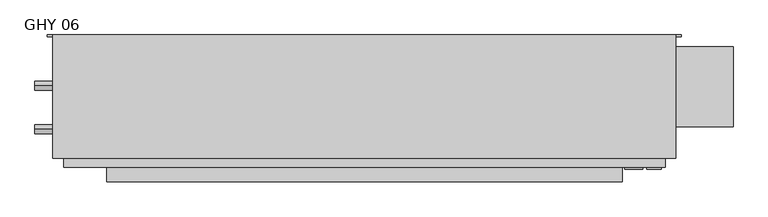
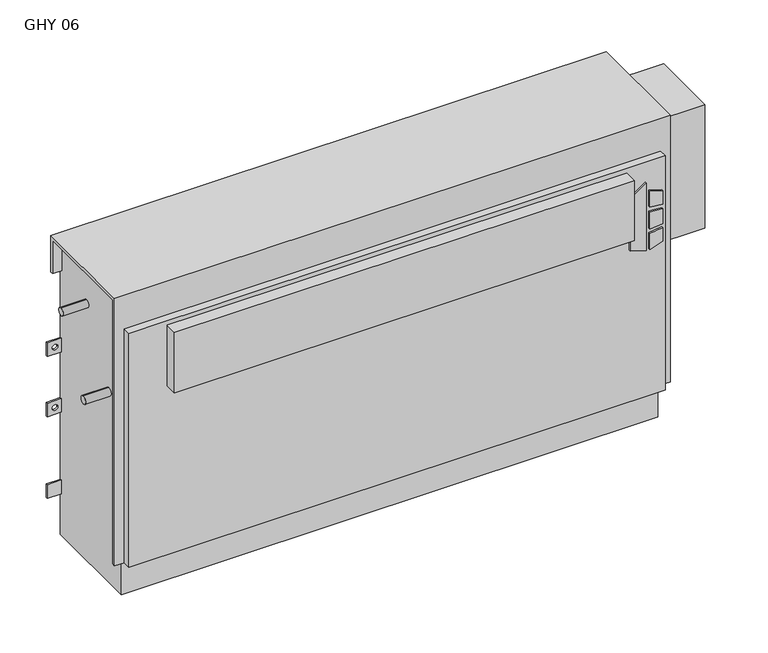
"""IFC4 building model written with IfcOpenShell, lengths in millimetres: proxy geometry, Vertical_Fan_Coil_Unit_-_GHY_-_IEC_-_2-Pipe_FS-FR_LH_2022 : GHY 06."""

from ifc_helpers import new_model, si_unit, point, frame, frame_2d, origin, place, context, project, spatial, polyline, circle_curve, trimmed, segment, composite_curve, outline, extrude, source, transform, mapped, element, save
from ifc_brep_helpers import plane_surface, revolved_surface, advanced_brep


def ghy_06_2a17fef1(model_context):
    return source(origin(), model_context, "Body", "SolidModel", [
        extrude(outline(polyline([(391.6086829, 614.4368862), (381.6606126, 646.6102728), (523.831537, 646.6102728), (500.8095309, 614.4368862), (391.6086829, 614.4368862)])), frame((0.0, 6.35, 0.0), z_axis=(0.0, 1.0, 0.0), x_axis=(0.0, 0.0, 1.0)), (0.0, 0.0, 1.0), 3.175),
        extrude(outline(polyline([(470.6079683, 653.3686058), (467.4055757, 679.45), (496.6344168, 679.45), (504.6988318, 653.3686058), (470.6079683, 653.3686058)])), frame((0.0, 6.35, 0.0), z_axis=(0.0, 1.0, 0.0), x_axis=(0.0, 0.0, 1.0)), (0.0, 0.0, 1.0), 3.175),
        extrude(outline(polyline([(418.7444414, 679.45), (415.0789404, 653.3686058), (381.6606126, 653.3686058), (390.2948498, 679.45), (418.7444414, 679.45)])), frame((0.0, 6.35, 0.0), z_axis=(0.0, 1.0, 0.0), x_axis=(0.0, 0.0, 1.0)), (0.0, 0.0, 1.0), 3.175),
        extrude(outline(polyline([(458.0596028, 679.45), (460.3414292, 653.3686058), (424.4038806, 653.3686058), (427.1451456, 679.45), (458.0596028, 679.45)])), frame((0.0, 6.35, 0.0), z_axis=(0.0, 1.0, 0.0), x_axis=(0.0, 0.0, 1.0)), (0.0, 0.0, 1.0), 3.175),
        extrude(outline(polyline([(609.6, -15.875), (-304.8, -15.875), (-304.8, 9.525), (609.6, 9.525), (609.6, -15.875)])), frame((0.0, 0.0, 428.625), z_axis=(0.0, 0.0, 1.0), x_axis=(1.0, 0.0, 0.0)), (0.0, 0.0, 1.0), 127.0),
        extrude(outline(composite_curve([segment(trimmed(circle_curve(frame_2d((77.597, 401.574)), 7.9375), [point((77.597, 409.5115))], [point((77.597, 393.6365))], False, "CARTESIAN"), True, "CONTINUOUS"), segment(trimmed(circle_curve(frame_2d((77.597, 401.574)), 7.9375), [point((77.597, 393.6365))], [point((77.597, 409.5115))], False, "CARTESIAN"), True, "CONTINUOUS")], self_intersect=False)), frame((-431.8, 0.0, 0.0), z_axis=(1.0, 0.0, 0.0), x_axis=(0.0, 1.0, 0.0)), (0.0, 0.0, 1.0), 50.8),
        extrude(outline(composite_curve([segment(trimmed(circle_curve(frame_2d((154.559, 540.512)), 7.9375), [point((154.559, 548.4495))], [point((154.559, 532.5745))], False, "CARTESIAN"), True, "CONTINUOUS"), segment(trimmed(circle_curve(frame_2d((154.559, 540.512)), 7.9375), [point((154.559, 532.5745))], [point((154.559, 548.4495))], False, "CARTESIAN"), True, "CONTINUOUS")], self_intersect=False)), frame((-431.8, 0.0, 0.0), z_axis=(1.0, 0.0, 0.0), x_axis=(0.0, 1.0, 0.0)), (0.0, 0.0, 1.0), 50.8),
        extrude(outline(polyline([(806.45, 223.266), (806.45, 81.534), (685.8, 81.534), (685.8, 223.266), (806.45, 223.266)])), frame((0.0, 0.0, 327.025), z_axis=(0.0, 0.0, 1.0), x_axis=(1.0, 0.0, 0.0)), (0.0, 0.0, 1.0), 260.35),
        advanced_brep(
        [(704.85, 244.475, 635.0), (-400.05, 244.475, 635.0), (-400.05, 25.4, 635.0), (704.85, 25.4, 635.0), (-381.0, 244.475, 0.0), (685.8, 244.475, 0.0), (685.8, 34.925, 0.0), (-381.0, 34.925, 0.0), (704.85, 244.475, 558.8), (685.8, 244.475, 558.8), (685.8, 244.475, 414.3375), (714.375, 244.475, 414.3375), (714.375, 244.475, 385.7625), (685.8, 244.475, 385.7625), (685.8, 244.475, 287.3375), (714.375, 244.475, 287.3375), (714.375, 244.475, 258.7625), (685.8, 244.475, 258.7625), (685.8, 244.475, 141.2875), (714.375, 244.475, 141.2875), (714.375, 244.475, 112.7125), (685.8, 244.475, 112.7125), (-381.0, 244.475, 87.3125), (-409.575, 244.475, 87.3125), (-409.575, 244.475, 115.8875), (-381.0, 244.475, 115.8875), (-381.0, 244.475, 258.7625), (-409.575, 244.475, 258.7625), (-409.575, 244.475, 287.3375), (-381.0, 244.475, 287.3375), (-381.0, 244.475, 385.7625), (-409.575, 244.475, 385.7625), (-409.575, 244.475, 414.3375), (-381.0, 244.475, 414.3375), (-381.0, 244.475, 558.8), (-400.05, 244.475, 558.8), (704.0626, 244.475, 127.0), (692.9374, 244.475, 127.0), (704.0626, 244.475, 273.05), (692.9374, 244.475, 273.05), (-388.1374, 244.475, 273.05), (-399.2626, 244.475, 273.05), (704.0626, 244.475, 400.05), (692.9374, 244.475, 400.05), (-388.1374, 244.475, 400.05), (-399.2626, 244.475, 400.05), (-400.05, 238.125, 558.8), (-400.05, 238.125, 628.65), (-400.05, 31.75, 628.65), (-400.05, 31.75, 73.025), (-400.05, 25.4, 73.025), (685.8, 9.525, 565.15), (-381.0, 9.525, 565.15), (-381.0, 9.525, 73.025), (685.8, 9.525, 73.025), (704.85, 25.4, 73.025), (704.85, 31.75, 73.025), (704.85, 31.75, 628.65), (704.85, 238.125, 628.65), (704.85, 238.125, 558.8), (-381.0, 25.4, 73.025), (-381.0, 25.4, 565.15), (685.8, 25.4, 565.15), (685.8, 25.4, 73.025), (-381.0, 31.75, 73.025), (-381.0, 34.925, 73.025), (685.8, 34.925, 73.025), (685.8, 31.75, 73.025), (685.8, 241.3, 112.7125), (685.8, 241.3, 141.2875), (685.8, 241.3, 258.7625), (685.8, 241.3, 287.3375), (685.8, 241.3, 385.7625), (685.8, 241.3, 414.3375), (685.8, 238.125, 558.8), (685.8, 238.125, 628.65), (685.8, 31.75, 628.65), (-381.0, 31.75, 628.65), (-381.0, 238.125, 628.65), (-381.0, 238.125, 558.8), (-381.0, 241.3, 414.3375), (-381.0, 241.3, 385.7625), (-381.0, 241.3, 287.3375), (-381.0, 241.3, 258.7625), (-381.0, 241.3, 115.8875), (-381.0, 241.3, 87.3125), (714.375, 241.3, 112.7125), (714.375, 241.3, 141.2875), (692.9374, 241.3, 127.0), (704.0626, 241.3, 127.0), (714.375, 241.3, 258.7625), (714.375, 241.3, 287.3375), (692.9374, 241.3, 273.05), (704.0626, 241.3, 273.05), (714.375, 241.3, 385.7625), (714.375, 241.3, 414.3375), (692.9374, 241.3, 400.05), (704.0626, 241.3, 400.05), (-409.575, 241.3, 115.8875), (-409.575, 241.3, 87.3125), (-409.575, 241.3, 287.3375), (-409.575, 241.3, 258.7625), (-399.2626, 241.3, 273.05), (-388.1374, 241.3, 273.05), (-409.575, 241.3, 414.3375), (-409.575, 241.3, 385.7625), (-399.2626, 241.3, 400.05), (-388.1374, 241.3, 400.05)],
        [
            (0, 1),
            (1, 2),
            (2, 3),
            (3, 0),
            (4, 5),
            (5, 6),
            (6, 7),
            (7, 4),
            (0, 8),
            (8, 9),
            (9, 10),
            (10, 11),
            (11, 12),
            (12, 13),
            (13, 14),
            (14, 15),
            (15, 16),
            (16, 17),
            (17, 18),
            (18, 19),
            (19, 20),
            (20, 21),
            (21, 5),
            (4, 22),
            (22, 23),
            (23, 24),
            (24, 25),
            (25, 26),
            (26, 27),
            (27, 28),
            (28, 29),
            (29, 30),
            (30, 31),
            (31, 32),
            (32, 33),
            (33, 34),
            (34, 35),
            (35, 1),
            (36, 37, circle_curve(frame((698.5, 244.475, 127.0), z_axis=(0.0, -1.0, 0.0), x_axis=(-1.0, 0.0, 0.0)), 5.5626)),
            (37, 36, circle_curve(frame((698.5, 244.475, 127.0), z_axis=(0.0, -1.0, 0.0), x_axis=(-1.0, 0.0, 0.0)), 5.5626)),
            (38, 39, circle_curve(frame((698.5, 244.475, 273.05), z_axis=(0.0, -1.0, 0.0), x_axis=(-1.0, 0.0, 0.0)), 5.5626)),
            (39, 38, circle_curve(frame((698.5, 244.475, 273.05), z_axis=(0.0, -1.0, 0.0), x_axis=(-1.0, 0.0, 0.0)), 5.5626)),
            (40, 41, circle_curve(frame((-393.7, 244.475, 273.05), z_axis=(0.0, -1.0, 0.0), x_axis=(-1.0, 0.0, 0.0)), 5.5626)),
            (41, 40, circle_curve(frame((-393.7, 244.475, 273.05), z_axis=(0.0, -1.0, 0.0), x_axis=(-1.0, 0.0, 0.0)), 5.5626)),
            (42, 43, circle_curve(frame((698.5, 244.475, 400.05), z_axis=(0.0, -1.0, 0.0), x_axis=(-1.0, 0.0, 0.0)), 5.5626)),
            (43, 42, circle_curve(frame((698.5, 244.475, 400.05), z_axis=(0.0, -1.0, 0.0), x_axis=(-1.0, 0.0, 0.0)), 5.5626)),
            (44, 45, circle_curve(frame((-393.7, 244.475, 400.05), z_axis=(0.0, -1.0, 0.0), x_axis=(-1.0, 0.0, 0.0)), 5.5626)),
            (45, 44, circle_curve(frame((-393.7, 244.475, 400.05), z_axis=(0.0, -1.0, 0.0), x_axis=(-1.0, 0.0, 0.0)), 5.5626)),
            (35, 46),
            (46, 47),
            (47, 48),
            (48, 49),
            (49, 50),
            (50, 2),
            (51, 52),
            (52, 53),
            (53, 54),
            (54, 51),
            (3, 55),
            (55, 56),
            (56, 57),
            (57, 58),
            (58, 59),
            (59, 8),
            (50, 60),
            (60, 61),
            (61, 62),
            (62, 63),
            (63, 55),
            (51, 62),
            (61, 52),
            (53, 60),
            (49, 64),
            (64, 65),
            (65, 66),
            (66, 67),
            (67, 56),
            (63, 54),
            (6, 66),
            (65, 7),
            (21, 68),
            (68, 69),
            (69, 18),
            (17, 70),
            (70, 71),
            (71, 14),
            (13, 72),
            (72, 73),
            (73, 10),
            (9, 74),
            (74, 75),
            (75, 76),
            (76, 67),
            (64, 77),
            (77, 78),
            (78, 79),
            (79, 34),
            (33, 80),
            (80, 81),
            (81, 30),
            (29, 82),
            (82, 83),
            (83, 26),
            (25, 84),
            (84, 85),
            (85, 22),
            (74, 59),
            (58, 75),
            (76, 57),
            (48, 77),
            (79, 46),
            (78, 47),
            (68, 86),
            (86, 87),
            (87, 69),
            (88, 89, circle_curve(frame((698.5, 241.3, 127.0), z_axis=(0.0, 1.0, 0.0), x_axis=(-1.0, 0.0, 0.0)), 5.5626)),
            (89, 88, circle_curve(frame((698.5, 241.3, 127.0), z_axis=(0.0, 1.0, 0.0), x_axis=(-1.0, 0.0, 0.0)), 5.5626)),
            (90, 91),
            (91, 71),
            (70, 90),
            (92, 93, circle_curve(frame((698.5, 241.3, 273.05), z_axis=(0.0, 1.0, 0.0), x_axis=(-1.0, 0.0, 0.0)), 5.5626)),
            (93, 92, circle_curve(frame((698.5, 241.3, 273.05), z_axis=(0.0, 1.0, 0.0), x_axis=(-1.0, 0.0, 0.0)), 5.5626)),
            (94, 95),
            (95, 73),
            (72, 94),
            (96, 97, circle_curve(frame((698.5, 241.3, 400.05), z_axis=(0.0, 1.0, 0.0), x_axis=(-1.0, 0.0, 0.0)), 5.5626)),
            (97, 96, circle_curve(frame((698.5, 241.3, 400.05), z_axis=(0.0, 1.0, 0.0), x_axis=(-1.0, 0.0, 0.0)), 5.5626)),
            (98, 99),
            (99, 85),
            (84, 98),
            (82, 100),
            (100, 101),
            (101, 83),
            (102, 103, circle_curve(frame((-393.7, 241.3, 273.05), z_axis=(0.0, 1.0, 0.0), x_axis=(-1.0, 0.0, 0.0)), 5.5626)),
            (103, 102, circle_curve(frame((-393.7, 241.3, 273.05), z_axis=(0.0, 1.0, 0.0), x_axis=(-1.0, 0.0, 0.0)), 5.5626)),
            (104, 105),
            (105, 81),
            (80, 104),
            (106, 107, circle_curve(frame((-393.7, 241.3, 400.05), z_axis=(0.0, 1.0, 0.0), x_axis=(-1.0, 0.0, 0.0)), 5.5626)),
            (107, 106, circle_curve(frame((-393.7, 241.3, 400.05), z_axis=(0.0, 1.0, 0.0), x_axis=(-1.0, 0.0, 0.0)), 5.5626)),
            (87, 19),
            (86, 20),
            (16, 90),
            (91, 15),
            (12, 94),
            (95, 11),
            (24, 98),
            (99, 23),
            (101, 27),
            (100, 28),
            (32, 104),
            (105, 31),
            (88, 37),
            (36, 89),
            (92, 39),
            (38, 93),
            (102, 41),
            (40, 103),
            (96, 43),
            (42, 97),
            (106, 45),
            (44, 107),
        ],
        [
            plane_surface(frame((-400.05, 244.475, 635.0), z_axis=(0.0, 0.0, 1.0), x_axis=(-1.0, 0.0, 0.0))),
            plane_surface(frame((-400.05, 244.475, 0.0), z_axis=(0.0, 0.0, -1.0), x_axis=(1.0, 0.0, 0.0))),
            plane_surface(frame((704.85, 244.475, 635.0), z_axis=(0.0, 1.0, 0.0), x_axis=(0.0, 0.0, -1.0))),
            plane_surface(frame((-400.05, 244.475, 635.0), z_axis=(-1.0, 0.0, 0.0), x_axis=(0.0, 0.0, -1.0))),
            plane_surface(frame((-400.05, 9.525, 635.0), z_axis=(0.0, -1.0, 0.0), x_axis=(0.0, 0.0, -1.0))),
            plane_surface(frame((704.85, 9.525, 635.0), z_axis=(1.0, 0.0, 0.0), x_axis=(0.0, 0.0, -1.0))),
            plane_surface(frame((-654.05, 25.4, 635.0), z_axis=(0.0, -1.0, 0.0), x_axis=(1.0, 0.0, 0.0))),
            plane_surface(frame((-654.05, 25.4, 565.15), z_axis=(0.0, 0.0, 1.0), x_axis=(1.0, 0.0, 0.0))),
            plane_surface(frame((-400.05, 9.525, 73.025), z_axis=(0.0, 0.0, -1.0), x_axis=(1.0, 0.0, 0.0))),
            plane_surface(frame((-400.05, 34.925, 73.025), z_axis=(0.0, -1.0, 0.0), x_axis=(1.0, 0.0, 0.0))),
            plane_surface(frame((685.8, 25.4, 73.025), z_axis=(1.0, 0.0, 0.0), x_axis=(0.0, -1.0, 0.0))),
            plane_surface(frame((-381.0, 25.4, 565.15), z_axis=(-1.0, 0.0, 0.0), x_axis=(0.0, -1.0, 0.0))),
            plane_surface(frame((685.8, 244.475, 0.0), z_axis=(1.0, 0.0, 0.0), x_axis=(0.0, -1.0, 0.0))),
            plane_surface(frame((-381.0, 244.475, 73.025), z_axis=(-1.0, 0.0, 0.0), x_axis=(0.0, -1.0, 0.0))),
            plane_surface(frame((685.8, 238.125, 628.65), z_axis=(0.0, -1.0, 0.0), x_axis=(1.0, 0.0, 0.0))),
            plane_surface(frame((685.8, 238.125, 558.8), z_axis=(0.0, 0.0, -1.0), x_axis=(1.0, 0.0, 0.0))),
            plane_surface(frame((685.8, 31.75, 73.025), z_axis=(0.0, 1.0, 0.0), x_axis=(1.0, 0.0, 0.0))),
            plane_surface(frame((685.8, 31.75, 628.65), z_axis=(0.0, 0.0, -1.0), x_axis=(1.0, 0.0, 0.0))),
            plane_surface(frame((-381.0, 31.75, 628.65), z_axis=(0.0, 1.0, 0.0), x_axis=(-1.0, 0.0, 0.0))),
            plane_surface(frame((-381.0, 244.475, 558.8), z_axis=(0.0, 0.0, -1.0), x_axis=(-1.0, 0.0, 0.0))),
            plane_surface(frame((-381.0, 238.125, 558.8), z_axis=(0.0, -1.0, 0.0), x_axis=(-1.0, 0.0, 0.0))),
            plane_surface(frame((-381.0, 238.125, 628.65), z_axis=(0.0, 0.0, -1.0), x_axis=(-1.0, 0.0, 0.0))),
            plane_surface(frame((714.375, 241.3, 141.2875), z_axis=(0.0, -1.0, 0.0), x_axis=(-1.0, 0.0, 0.0))),
            plane_surface(frame((685.8, 244.475, 141.2875), z_axis=(0.0, 0.0, 1.0), x_axis=(0.0, -1.0, 0.0))),
            plane_surface(frame((714.375, 244.475, 141.2875), z_axis=(1.0, 0.0, 0.0), x_axis=(0.0, -1.0, 0.0))),
            plane_surface(frame((714.375, 244.475, 112.7125), z_axis=(0.0, 0.0, -1.0), x_axis=(0.0, -1.0, 0.0))),
            plane_surface(frame((714.375, 244.475, 258.7625), z_axis=(0.0, 0.0, -1.0), x_axis=(0.0, -1.0, 0.0))),
            plane_surface(frame((685.8, 244.475, 287.3375), z_axis=(0.0, 0.0, 1.0), x_axis=(0.0, -1.0, 0.0))),
            plane_surface(frame((714.375, 244.475, 287.3375), z_axis=(1.0, 0.0, 0.0), x_axis=(0.0, -1.0, 0.0))),
            plane_surface(frame((714.375, 244.475, 385.7625), z_axis=(0.0, 0.0, -1.0), x_axis=(0.0, -1.0, 0.0))),
            plane_surface(frame((685.8, 244.475, 414.3375), z_axis=(0.0, 0.0, 1.0), x_axis=(0.0, -1.0, 0.0))),
            plane_surface(frame((714.375, 244.475, 414.3375), z_axis=(1.0, 0.0, 0.0), x_axis=(0.0, -1.0, 0.0))),
            plane_surface(frame((-409.575, 244.475, 115.8875), z_axis=(0.0, 0.0, 1.0), x_axis=(0.0, -1.0, 0.0))),
            plane_surface(frame((-381.0, 244.475, 87.3125), z_axis=(0.0, 0.0, -1.0), x_axis=(0.0, -1.0, 0.0))),
            plane_surface(frame((-409.575, 244.475, 87.3125), z_axis=(-1.0, 0.0, 0.0), x_axis=(0.0, -1.0, 0.0))),
            plane_surface(frame((-381.0, 244.475, 258.7625), z_axis=(0.0, 0.0, -1.0), x_axis=(0.0, -1.0, 0.0))),
            plane_surface(frame((-409.575, 244.475, 258.7625), z_axis=(-1.0, 0.0, 0.0), x_axis=(0.0, -1.0, 0.0))),
            plane_surface(frame((-409.575, 244.475, 287.3375), z_axis=(0.0, 0.0, 1.0), x_axis=(0.0, -1.0, 0.0))),
            plane_surface(frame((-409.575, 244.475, 414.3375), z_axis=(0.0, 0.0, 1.0), x_axis=(0.0, -1.0, 0.0))),
            plane_surface(frame((-381.0, 244.475, 385.7625), z_axis=(0.0, 0.0, -1.0), x_axis=(0.0, -1.0, 0.0))),
            plane_surface(frame((-409.575, 244.475, 385.7625), z_axis=(-1.0, 0.0, 0.0), x_axis=(0.0, -1.0, 0.0))),
            revolved_surface(polyline([(692.9374, 241.3, 127.0), (692.9374, 244.475, 127.0)]), (698.5, 244.475, 127.0), (0.0, -1.0, 0.0)),
            revolved_surface(polyline([(692.9374, 241.3, 273.05), (692.9374, 244.475, 273.05)]), (698.5, 244.475, 273.05), (0.0, -1.0, 0.0)),
            revolved_surface(polyline([(-399.26259999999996, 241.3, 273.05), (-399.26259999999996, 244.475, 273.05)]), (-393.7, 244.475, 273.05), (0.0, -1.0, 0.0)),
            revolved_surface(polyline([(692.9374, 241.3, 400.05), (692.9374, 244.475, 400.05)]), (698.5, 244.475, 400.05), (0.0, -1.0, 0.0)),
            revolved_surface(polyline([(-399.26259999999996, 241.3, 400.05), (-399.26259999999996, 244.475, 400.05)]), (-393.7, 244.475, 400.05), (0.0, -1.0, 0.0)),
        ],
        [
            (0, [[1, 2, 3, 4]]),
            (1, [[5, 6, 7, 8]]),
            (2, [[-1, 9, 10, 11, 12, 13, 14, 15, 16, 17, 18, 19, 20, 21, 22, 23, -5, 24, 25, 26, 27, 28, 29, 30, 31, 32, 33, 34, 35, 36, 37, 38], [39, 40], [41, 42], [43, 44], [45, 46], [47, 48]]),
            (3, [[-2, -38, 49, 50, 51, 52, 53, 54]]),
            (4, [[55, 56, 57, 58]]),
            (5, [[-4, 59, 60, 61, 62, 63, 64, -9]]),
            (6, [[-3, -54, 65, 66, 67, 68, 69, -59]]),
            (7, [[-55, 70, -67, 71]]),
            (8, [[-57, 72, -65, -53, 73, 74, 75, 76, 77, -60, -69, 78]]),
            (9, [[-7, 79, -75, 80]]),
            (10, [[-68, -70, -58, -78]]),
            (11, [[-66, -72, -56, -71]]),
            (12, [[-6, -23, 81, 82, 83, -19, 84, 85, 86, -15, 87, 88, 89, -11, 90, 91, 92, 93, -76, -79]]),
            (13, [[-8, -80, -74, 94, 95, 96, 97, -36, 98, 99, 100, -32, 101, 102, 103, -28, 104, 105, 106, -24]]),
            (14, [[-91, 107, -63, 108]]),
            (15, [[-90, -10, -64, -107]]),
            (16, [[-93, 109, -61, -77]]),
            (17, [[-92, -108, -62, -109]]),
            (18, [[-94, -73, -52, 110]]),
            (19, [[-97, 111, -49, -37]]),
            (20, [[-96, 112, -50, -111]]),
            (21, [[-95, -110, -51, -112]]),
            (22, [[113, 114, 115, -82], [116, 117]]),
            (22, [[118, 119, -85, 120], [121, 122]]),
            (22, [[123, 124, -88, 125], [126, 127]]),
            (22, [[128, 129, -105, 130]]),
            (22, [[131, 132, 133, -102], [134, 135]]),
            (22, [[136, 137, -99, 138], [139, 140]]),
            (23, [[-115, 141, -20, -83]]),
            (24, [[-114, 142, -21, -141]]),
            (25, [[-113, -81, -22, -142]]),
            (26, [[-120, -84, -18, 143]]),
            (27, [[-119, 144, -16, -86]]),
            (28, [[-118, -143, -17, -144]]),
            (29, [[-125, -87, -14, 145]]),
            (30, [[-124, 146, -12, -89]]),
            (31, [[-123, -145, -13, -146]]),
            (32, [[-130, -104, -27, 147]]),
            (33, [[-129, 148, -25, -106]]),
            (34, [[-128, -147, -26, -148]]),
            (35, [[-133, 149, -29, -103]]),
            (36, [[-132, 150, -30, -149]]),
            (37, [[-131, -101, -31, -150]]),
            (38, [[-138, -98, -35, 151]]),
            (39, [[-137, 152, -33, -100]]),
            (40, [[-136, -151, -34, -152]]),
            (41, [[153, -39, 154, -116]]),
            (41, [[-153, -117, -154, -40]]),
            (42, [[155, -41, 156, -121]]),
            (42, [[-155, -122, -156, -42]]),
            (43, [[157, -43, 158, -134]]),
            (43, [[-157, -135, -158, -44]]),
            (44, [[159, -45, 160, -126]]),
            (44, [[-159, -127, -160, -46]]),
            (45, [[161, -47, 162, -139]]),
            (45, [[-161, -140, -162, -48]]),
        ],
    ),
    ])


if __name__ == "__main__":
    model = new_model("IFC4")
    model_context = context("Model", 3, world=origin())
    ifc_project = project(units=[si_unit("LENGTHUNIT", "METRE", prefix="MILLI")], contexts=[model_context])
    site = spatial("IfcSite", under=ifc_project)
    building = spatial("IfcBuilding", under=site)
    placement = place(None, origin())
    ghy_06_shape = ghy_06_2a17fef1(model_context)
    element("IfcBuildingElementProxy", 1, Name="Vertical_Fan_Coil_Unit_-_GHY_-_IEC_-_2-Pipe_FS-FR_LH_2022 : GHY 06", ObjectType="Vertical_Fan_Coil_Unit_-_GHY_-_IEC_-_2-Pipe_FS-FR_LH_2022 : GHY 06", at=placement, inside=building, context=model_context, shape_type="MappedRepresentation", body=[
        mapped(ghy_06_shape, transform((0.0, 0.0, 0.0), x_axis=(1.0, 0.0, 0.0), y_axis=(0.0, 1.0, 0.0), z_axis=(0.0, 0.0, 1.0))),
    ])
    save(model, "model.ifc")
